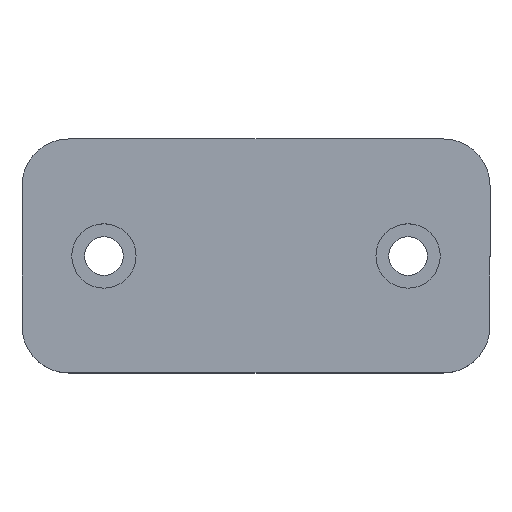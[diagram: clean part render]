
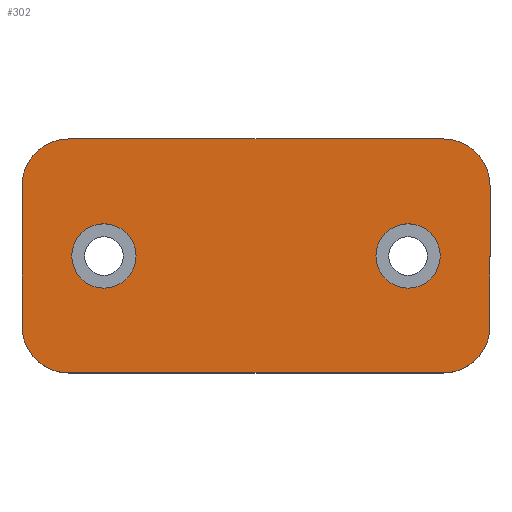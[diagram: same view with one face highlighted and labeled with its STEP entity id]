
A CAD part, top view. The second image highlights one B-rep face of the part: STEP entity #302.
In plain terms, the highlighted planar face has unit normal (0, 0, 1).
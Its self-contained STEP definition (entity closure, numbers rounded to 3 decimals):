
#3 = AXIS2_PLACEMENT_3D ( 'NONE', #565, #362, #489 ) ;
#4 = ORIENTED_EDGE ( 'NONE', *, *, #684, .T. ) ;
#18 = VERTEX_POINT ( 'NONE', #221 ) ;
#24 = EDGE_CURVE ( 'NONE', #791, #702, #405, .T. ) ;
#26 = CARTESIAN_POINT ( 'NONE',  ( -26., 0., 12.1 ) ) ;
#39 = CIRCLE ( 'NONE', #602, 5.5 ) ;
#43 = DIRECTION ( 'NONE',  ( 1., 0., 0. ) ) ;
#48 = AXIS2_PLACEMENT_3D ( 'NONE', #511, #841, #123 ) ;
#53 = VERTEX_POINT ( 'NONE', #472 ) ;
#65 = CARTESIAN_POINT ( 'NONE',  ( -20.5, 0., 12.1 ) ) ;
#67 = LINE ( 'NONE', #122, #838 ) ;
#81 = FACE_BOUND ( 'NONE', #289, .T. ) ;
#93 = CARTESIAN_POINT ( 'NONE',  ( 20.5, 0., 12.1 ) ) ;
#94 = DIRECTION ( 'NONE',  ( 0., 0., 1. ) ) ;
#107 = EDGE_CURVE ( 'NONE', #18, #754, #564, .T. ) ;
#111 = DIRECTION ( 'NONE',  ( 0., 0., 1. ) ) ;
#116 = CIRCLE ( 'NONE', #48, 5.5 ) ;
#122 = CARTESIAN_POINT ( 'NONE',  ( 32., 20., 12.1 ) ) ;
#123 = DIRECTION ( 'NONE',  ( 1., 0., 0. ) ) ;
#128 = VERTEX_POINT ( 'NONE', #283 ) ;
#131 = FACE_BOUND ( 'NONE', #449, .T. ) ;
#133 = ORIENTED_EDGE ( 'NONE', *, *, #286, .T. ) ;
#169 = VECTOR ( 'NONE', #304, 1000. ) ;
#173 = PLANE ( 'NONE',  #641 ) ;
#176 = ORIENTED_EDGE ( 'NONE', *, *, #617, .T. ) ;
#186 = EDGE_CURVE ( 'NONE', #471, #459, #734, .T. ) ;
#220 = AXIS2_PLACEMENT_3D ( 'NONE', #557, #291, #411 ) ;
#221 = CARTESIAN_POINT ( 'NONE',  ( -32., -20., 12.1 ) ) ;
#245 = ORIENTED_EDGE ( 'NONE', *, *, #107, .T. ) ;
#246 = CARTESIAN_POINT ( 'NONE',  ( 40., -12., 12.1 ) ) ;
#252 = DIRECTION ( 'NONE',  ( 1., 0., 0. ) ) ;
#256 = LINE ( 'NONE', #601, #169 ) ;
#261 = CARTESIAN_POINT ( 'NONE',  ( 40., 12., 12.1 ) ) ;
#265 = EDGE_CURVE ( 'NONE', #385, #471, #256, .T. ) ;
#283 = CARTESIAN_POINT ( 'NONE',  ( -32., 20., 12.1 ) ) ;
#286 = EDGE_CURVE ( 'NONE', #754, #385, #540, .T. ) ;
#289 = EDGE_LOOP ( 'NONE', ( #453, #542 ) ) ;
#291 = DIRECTION ( 'NONE',  ( 0., 0., 1. ) ) ;
#298 = VECTOR ( 'NONE', #726, 1000. ) ;
#299 = ORIENTED_EDGE ( 'NONE', *, *, #628, .F. ) ;
#302 = ADVANCED_FACE ( 'NONE', ( #81, #131, #605 ), #173, .T. ) ;
#304 = DIRECTION ( 'NONE',  ( 0., 1., 0. ) ) ;
#325 = ORIENTED_EDGE ( 'NONE', *, *, #635, .F. ) ;
#329 = CARTESIAN_POINT ( 'NONE',  ( 32., -20., 12.1 ) ) ;
#350 = CARTESIAN_POINT ( 'NONE',  ( -31.5, 0., 12.1 ) ) ;
#358 = EDGE_CURVE ( 'NONE', #785, #53, #455, .T. ) ;
#362 = DIRECTION ( 'NONE',  ( 0., 0., 1. ) ) ;
#370 = EDGE_CURVE ( 'NONE', #53, #785, #116, .T. ) ;
#385 = VERTEX_POINT ( 'NONE', #246 ) ;
#398 = DIRECTION ( 'NONE',  ( 0., -1., 0. ) ) ;
#400 = CARTESIAN_POINT ( 'NONE',  ( 32., -20., 12.1 ) ) ;
#405 = LINE ( 'NONE', #537, #607 ) ;
#411 = DIRECTION ( 'NONE',  ( 1., 0., 0. ) ) ;
#416 = CIRCLE ( 'NONE', #522, 8. ) ;
#431 = CARTESIAN_POINT ( 'NONE',  ( -32., 12., 12.1 ) ) ;
#437 = CARTESIAN_POINT ( 'NONE',  ( -40., -12., 12.1 ) ) ;
#449 = EDGE_LOOP ( 'NONE', ( #325, #299 ) ) ;
#453 = ORIENTED_EDGE ( 'NONE', *, *, #370, .F. ) ;
#454 = AXIS2_PLACEMENT_3D ( 'NONE', #577, #515, #252 ) ;
#455 = CIRCLE ( 'NONE', #454, 5.5 ) ;
#459 = VERTEX_POINT ( 'NONE', #704 ) ;
#465 = CIRCLE ( 'NONE', #220, 5.5 ) ;
#471 = VERTEX_POINT ( 'NONE', #261 ) ;
#472 = CARTESIAN_POINT ( 'NONE',  ( 31.5, 0., 12.1 ) ) ;
#474 = AXIS2_PLACEMENT_3D ( 'NONE', #706, #507, #777 ) ;
#477 = VERTEX_POINT ( 'NONE', #65 ) ;
#489 = DIRECTION ( 'NONE',  ( 1., 0., 0. ) ) ;
#507 = DIRECTION ( 'NONE',  ( 0., 0., 1. ) ) ;
#511 = CARTESIAN_POINT ( 'NONE',  ( 26., 0., 12.1 ) ) ;
#515 = DIRECTION ( 'NONE',  ( 0., 0., 1. ) ) ;
#522 = AXIS2_PLACEMENT_3D ( 'NONE', #431, #834, #43 ) ;
#532 = ORIENTED_EDGE ( 'NONE', *, *, #24, .T. ) ;
#537 = CARTESIAN_POINT ( 'NONE',  ( -40., -12., 12.1 ) ) ;
#539 = DIRECTION ( 'NONE',  ( 1., 0., 0. ) ) ;
#540 = CIRCLE ( 'NONE', #3, 8. ) ;
#542 = ORIENTED_EDGE ( 'NONE', *, *, #358, .F. ) ;
#545 = DIRECTION ( 'NONE',  ( 1., 0., 0. ) ) ;
#552 = CIRCLE ( 'NONE', #474, 8. ) ;
#554 = EDGE_LOOP ( 'NONE', ( #770, #176, #4, #532, #691, #245, #133, #633 ) ) ;
#557 = CARTESIAN_POINT ( 'NONE',  ( -26., 0., 12.1 ) ) ;
#564 = LINE ( 'NONE', #400, #298 ) ;
#565 = CARTESIAN_POINT ( 'NONE',  ( 32., -12., 12.1 ) ) ;
#575 = DIRECTION ( 'NONE',  ( -1., 0., 0. ) ) ;
#577 = CARTESIAN_POINT ( 'NONE',  ( 26., 0., 12.1 ) ) ;
#598 = EDGE_CURVE ( 'NONE', #702, #18, #552, .T. ) ;
#601 = CARTESIAN_POINT ( 'NONE',  ( 40., -12., 12.1 ) ) ;
#602 = AXIS2_PLACEMENT_3D ( 'NONE', #26, #94, #545 ) ;
#605 = FACE_OUTER_BOUND ( 'NONE', #554, .T. ) ;
#607 = VECTOR ( 'NONE', #398, 1000. ) ;
#617 = EDGE_CURVE ( 'NONE', #459, #128, #67, .T. ) ;
#627 = CARTESIAN_POINT ( 'NONE',  ( 32., 12., 12.1 ) ) ;
#628 = EDGE_CURVE ( 'NONE', #694, #477, #39, .T. ) ;
#633 = ORIENTED_EDGE ( 'NONE', *, *, #265, .T. ) ;
#635 = EDGE_CURVE ( 'NONE', #477, #694, #465, .T. ) ;
#641 = AXIS2_PLACEMENT_3D ( 'NONE', #627, #111, #765 ) ;
#673 = CARTESIAN_POINT ( 'NONE',  ( 32., 12., 12.1 ) ) ;
#684 = EDGE_CURVE ( 'NONE', #128, #791, #416, .T. ) ;
#691 = ORIENTED_EDGE ( 'NONE', *, *, #598, .T. ) ;
#694 = VERTEX_POINT ( 'NONE', #350 ) ;
#702 = VERTEX_POINT ( 'NONE', #437 ) ;
#704 = CARTESIAN_POINT ( 'NONE',  ( 32., 20., 12.1 ) ) ;
#706 = CARTESIAN_POINT ( 'NONE',  ( -32., -12., 12.1 ) ) ;
#726 = DIRECTION ( 'NONE',  ( 1., 0., 0. ) ) ;
#734 = CIRCLE ( 'NONE', #809, 8. ) ;
#754 = VERTEX_POINT ( 'NONE', #329 ) ;
#765 = DIRECTION ( 'NONE',  ( 1., 0., 0. ) ) ;
#770 = ORIENTED_EDGE ( 'NONE', *, *, #186, .T. ) ;
#777 = DIRECTION ( 'NONE',  ( -1., 0., 0. ) ) ;
#785 = VERTEX_POINT ( 'NONE', #93 ) ;
#791 = VERTEX_POINT ( 'NONE', #806 ) ;
#806 = CARTESIAN_POINT ( 'NONE',  ( -40., 12., 12.1 ) ) ;
#807 = DIRECTION ( 'NONE',  ( 0., 0., 1. ) ) ;
#809 = AXIS2_PLACEMENT_3D ( 'NONE', #673, #807, #539 ) ;
#834 = DIRECTION ( 'NONE',  ( 0., 0., 1. ) ) ;
#838 = VECTOR ( 'NONE', #575, 1000. ) ;
#841 = DIRECTION ( 'NONE',  ( 0., 0., 1. ) ) ;
